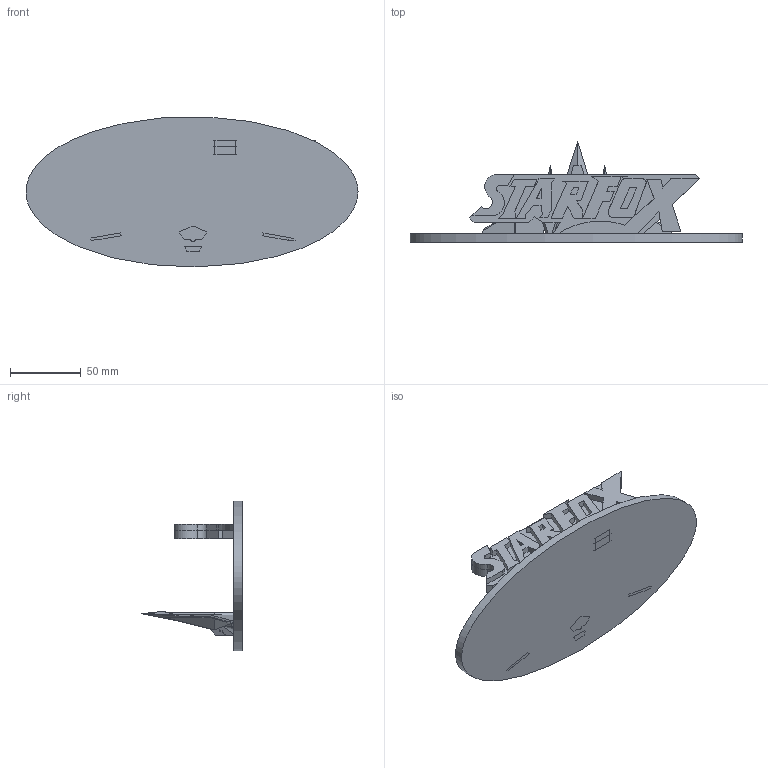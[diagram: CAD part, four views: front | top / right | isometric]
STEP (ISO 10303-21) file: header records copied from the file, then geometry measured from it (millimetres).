
FILE_DESCRIPTION(/* description */ ('STEP AP242 Edition 2','CAx-IF Rec.Pracs.---Representation and Presentation of Product Manufacturing Information (PMI)---4.0---2014-10-13','CAx-IF Rec.Pracs.---3D Tessellated Geometry---0.4---2014-09-14','2;1','CAx-IF Rec.Pracs.---User Defined Attributes---1.5---2016-08-15'),/* implementation_level */ '2;1');
FILE_NAME(/* name */ '69224b1ad3afa62b40247069',/* time_stamp */ '2025-11-22T23:45:31Z',/* author */ (''),/* organization */ (''),/* preprocessor_version */ 'ST-DEVELOPER v20',/* originating_system */ 'ONSHAPE BY PTC INC, 1.207',/* authorisation */ ' ');
FILE_SCHEMA (('AP242_MANAGED_MODEL_BASED_3D_ENGINEERING_MIM_LF { 1 0 10303 442 3 1 4 }'));
Length unit declared in the file: metre
Products named in the file (9): engine(blue); cockpit(black); Base(black); words(orange); ship(grey); words_base(red)
Bounding box: 233.93 x 70.89 x 105.61 mm (x, y, z)
Volume: 152284.3 mm3; surface area: 85568.6 mm2
Topology: 9 solids, 9 shells, 769 faces, 1989 edges, 1265 vertices
Faces by surface type: plane 684, cylinder 80, bspline 5
Full cylindrical faces by diameter (mm): 1.633 x2, 1.64 x8, 1.772 x6, 2.2 x20
Entity records: 23028 total; most frequent: CARTESIAN_POINT 4081, ORIENTED_EDGE 3896, DIRECTION 3680, EDGE_CURVE 1948, LINE 1744, VECTOR 1744, VERTEX_POINT 1261, AXIS2_PLACEMENT_3D 968
